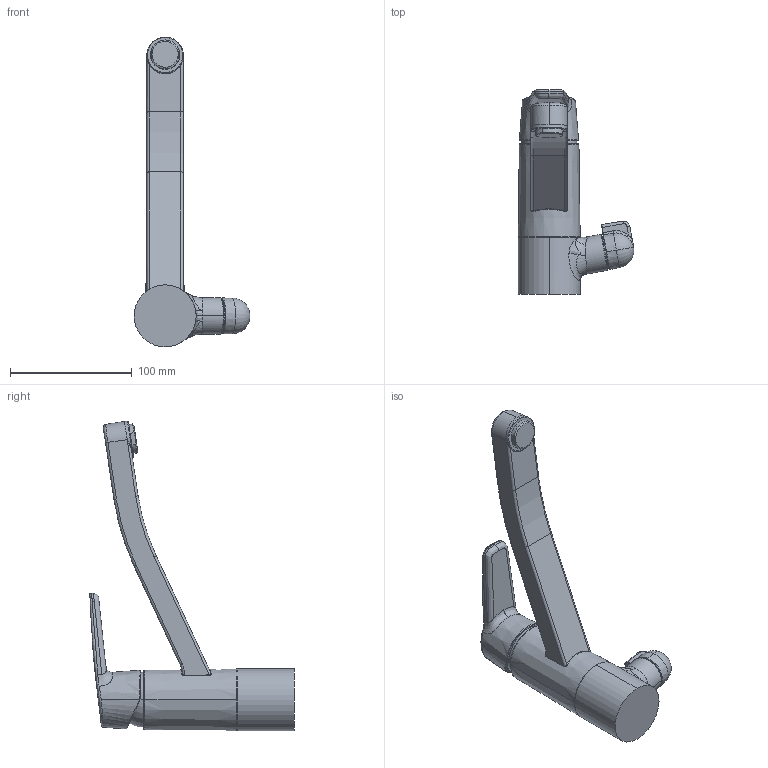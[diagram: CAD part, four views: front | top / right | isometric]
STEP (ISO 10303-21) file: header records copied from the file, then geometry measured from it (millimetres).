
FILE_DESCRIPTION (( 'STEP AP203' ), '1' );
FILE_NAME ('3935(2020)+3935F(2020)+52662293(2020).STEP', '2020-01-02T09:46:21', ( '' ), ( '' ), 'SwSTEP 2.0', 'SolidWorks 2016', '' );
FILE_SCHEMA (( 'CONFIG_CONTROL_DESIGN' ));
Length unit declared in the file: millimetre
Products named in the file (1): 3935(2020)+3935F(2020)+52662293(2020)
Bounding box: 95.18 x 168.1 x 254.74 mm (x, y, z)
Volume: 483859.9 mm3; surface area: 58631.6 mm2
Topology: 1 solids, 1 shells, 151 faces, 435 edges, 290 vertices
Faces by surface type: bspline 73, cylinder 29, plane 20, torus 17, cone 12
Entity records: 25769 total; most frequent: CARTESIAN_POINT 22477, ORIENTED_EDGE 864, EDGE_CURVE 432, DIRECTION 407, VERTEX_POINT 290, B_SPLINE_CURVE_WITH_KNOTS 255, AXIS2_PLACEMENT_3D 176, EDGE_LOOP 158
